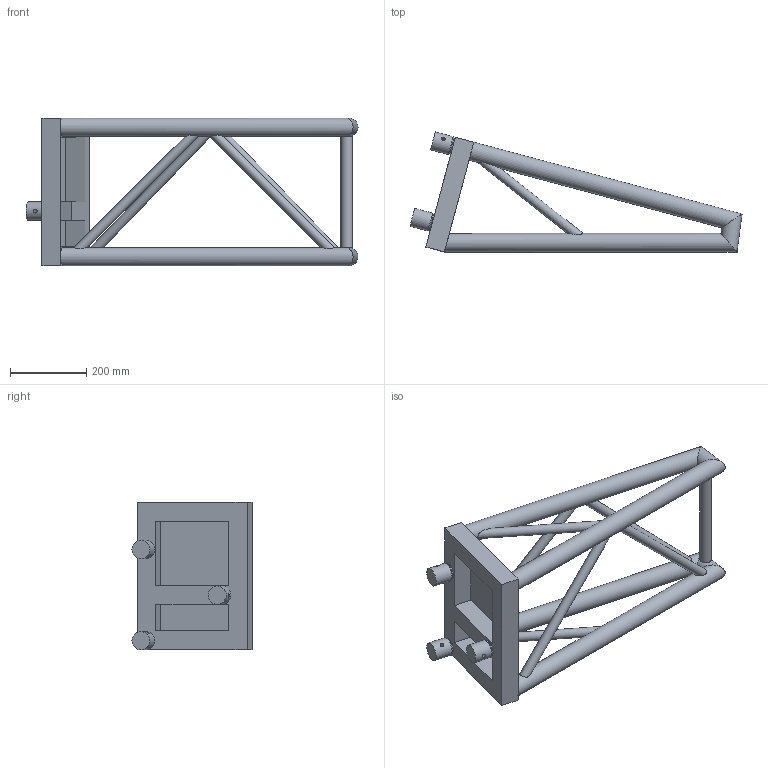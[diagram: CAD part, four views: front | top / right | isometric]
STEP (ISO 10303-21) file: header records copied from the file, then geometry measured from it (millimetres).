
FILE_DESCRIPTION(/* description */ (''),/* implementation_level */ '2;1');
FILE_NAME(/* name */ 'M:\Symbolen_NIEUW\STP\Adapters\111710010.stp',/* time_stamp */ '2015-06-09T17:09:39+02:00',/* author */ ('Sietse'),/* organization */ (''),/* preprocessor_version */ 'ST-DEVELOPER v15.6',/* originating_system */ 'Autodesk Inventor 2015',/* authorisation */ '');
FILE_SCHEMA (('AUTOMOTIVE_DESIGN { 1 0 10303 214 3 1 1 }'));
Length unit declared in the file: millimetre
Products named in the file (1): 260009210
Bounding box: 869.12 x 314.24 x 387.3 mm (x, y, z)
Volume: 16277589.9 mm3; surface area: 817940 mm2
Topology: 1 solids, 1 shells, 48 faces, 143 edges, 90 vertices
Faces by surface type: plane 23, cylinder 22, cone 3
Full cylindrical faces by diameter (mm): 10 x3, 25 x6, 30 x1, 41.8 x3, 48.3 x9
Entity records: 2248 total; most frequent: CARTESIAN_POINT 1007, DIRECTION 202, ORIENTED_EDGE 200, EDGE_LOOP 100, EDGE_CURVE 98, AXIS2_PLACEMENT_3D 79, VERTEX_POINT 78, FACE_BOUND 52
